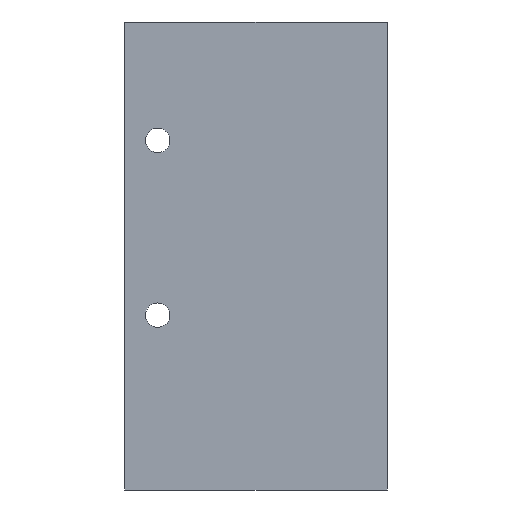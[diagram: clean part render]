
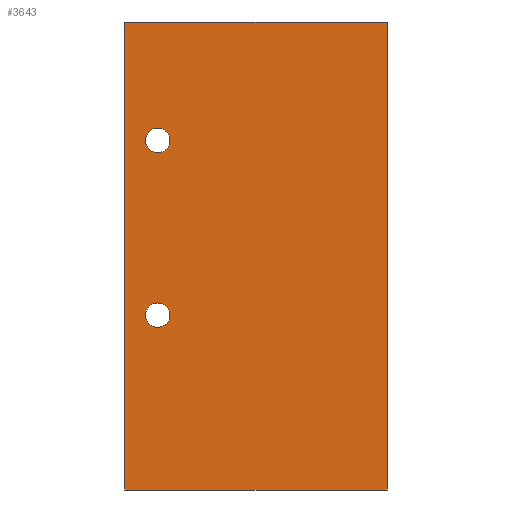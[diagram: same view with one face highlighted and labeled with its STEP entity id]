
A CAD part, front view. The second image highlights one B-rep face of the part: STEP entity #3643.
In plain terms, the highlighted planar face has unit normal (0, -1, 0).
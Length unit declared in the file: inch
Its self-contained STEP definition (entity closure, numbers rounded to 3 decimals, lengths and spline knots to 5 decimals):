
#179=CIRCLE('',#3857,0.14);
#181=CIRCLE('',#3860,0.14);
#397=FACE_BOUND('',#997,.T.);
#398=FACE_BOUND('',#998,.T.);
#399=FACE_BOUND('',#999,.T.);
#997=EDGE_LOOP('',(#2974));
#998=EDGE_LOOP('',(#2975));
#999=EDGE_LOOP('',(#2976,#2977,#2978,#2979));
#1341=LINE('',#6070,#1565);
#1343=LINE('',#6163,#1567);
#1347=LINE('',#6398,#1571);
#1349=LINE('',#6420,#1573);
#1565=VECTOR('',#4443,5.3498);
#1567=VECTOR('',#4515,5.3498);
#1571=VECTOR('',#4597,3.);
#1573=VECTOR('',#4625,3.);
#1758=VERTEX_POINT('',#6063);
#1761=VERTEX_POINT('',#6068);
#1782=VERTEX_POINT('',#6160);
#1783=VERTEX_POINT('',#6162);
#1794=VERTEX_POINT('',#6322);
#1796=VERTEX_POINT('',#6327);
#2168=EDGE_CURVE('',#1761,#1758,#1341,.T.);
#2189=EDGE_CURVE('',#1783,#1782,#1343,.T.);
#2203=EDGE_CURVE('',#1794,#1794,#179,.T.);
#2205=EDGE_CURVE('',#1796,#1796,#181,.T.);
#2219=EDGE_CURVE('',#1783,#1761,#1347,.T.);
#2228=EDGE_CURVE('',#1782,#1758,#1349,.T.);
#2974=ORIENTED_EDGE('',*,*,#2203,.T.);
#2975=ORIENTED_EDGE('',*,*,#2205,.T.);
#2976=ORIENTED_EDGE('',*,*,#2228,.T.);
#2977=ORIENTED_EDGE('',*,*,#2168,.F.);
#2978=ORIENTED_EDGE('',*,*,#2219,.F.);
#2979=ORIENTED_EDGE('',*,*,#2189,.T.);
#3300=PLANE('',#3928);
#3643=ADVANCED_FACE('',(#397,#398,#399),#3300,.T.);
#3857=AXIS2_PLACEMENT_3D('',#6323,#4544,#4545);
#3860=AXIS2_PLACEMENT_3D('',#6328,#4550,#4551);
#3928=AXIS2_PLACEMENT_3D('',#6467,#4690,#4691);
#4443=DIRECTION('',(0.,0.,1.));
#4515=DIRECTION('',(0.,0.,1.));
#4544=DIRECTION('center_axis',(0.,1.,0.));
#4545=DIRECTION('ref_axis',(1.,0.,0.));
#4550=DIRECTION('center_axis',(0.,1.,0.));
#4551=DIRECTION('ref_axis',(1.,0.,0.));
#4597=DIRECTION('',(-1.,0.,0.));
#4625=DIRECTION('',(-1.,0.,0.));
#4690=DIRECTION('center_axis',(0.,-1.,0.));
#4691=DIRECTION('ref_axis',(0.,0.,-1.));
#6063=CARTESIAN_POINT('',(-1.57,-1.,5.3498));
#6068=CARTESIAN_POINT('',(-1.57,-1.,0.));
#6070=CARTESIAN_POINT('',(-1.57,-1.,0.));
#6160=CARTESIAN_POINT('',(1.43,-1.,5.3498));
#6162=CARTESIAN_POINT('',(1.43,-1.,0.));
#6163=CARTESIAN_POINT('',(1.43,-1.,0.));
#6322=CARTESIAN_POINT('',(-1.055,-1.,4.));
#6323=CARTESIAN_POINT('Origin',(-1.195,-1.,4.));
#6327=CARTESIAN_POINT('',(-1.055,-1.,2.));
#6328=CARTESIAN_POINT('Origin',(-1.195,-1.,2.));
#6398=CARTESIAN_POINT('',(1.43,-1.,0.));
#6420=CARTESIAN_POINT('',(1.43,-1.,5.3498));
#6467=CARTESIAN_POINT('Origin',(1.43,-1.,0.));
